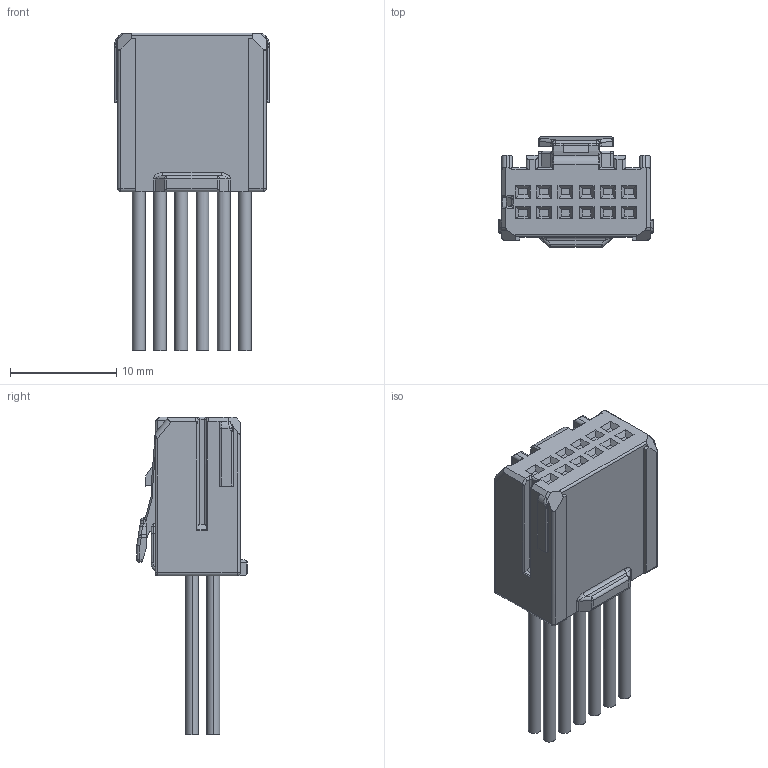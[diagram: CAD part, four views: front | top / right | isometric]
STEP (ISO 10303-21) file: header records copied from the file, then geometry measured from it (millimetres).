
FILE_DESCRIPTION (( 'STEP AP203' ), '1' );
FILE_NAME ('ISH 12P FEMALE CONNECTOR.STEP', '2018-08-20T12:08:47', ( '' ), ( '' ), 'SwSTEP 2.0', 'SolidWorks 2017', '' );
FILE_SCHEMA (( 'CONFIG_CONTROL_DESIGN' ));
Length unit declared in the file: millimetre
Products named in the file (2): ISH 12P FEMALE CONNECTOR; Part2^ISH 12P FEMALE CONNECTOR
Assembly tree (1 placements, depth 2):
  ISH 12P FEMALE CONNECTOR
    Part2^ISH 12P FEMALE CONNECTOR
Bounding box: 14.6 x 10.4 x 29.95 mm (x, y, z)
Volume: 1743.9 mm3; surface area: 1820.8 mm2
Topology: 1 solids, 1 shells, 455 faces, 1161 edges, 732 vertices
Faces by surface type: plane 280, cylinder 130, bspline 17, torus 16, sphere 10, cone 2
Entity records: 13962 total; most frequent: CARTESIAN_POINT 3061, ORIENTED_EDGE 2302, DIRECTION 2112, EDGE_CURVE 1151, LINE 834, VECTOR 834, VERTEX_POINT 732, AXIS2_PLACEMENT_3D 639
